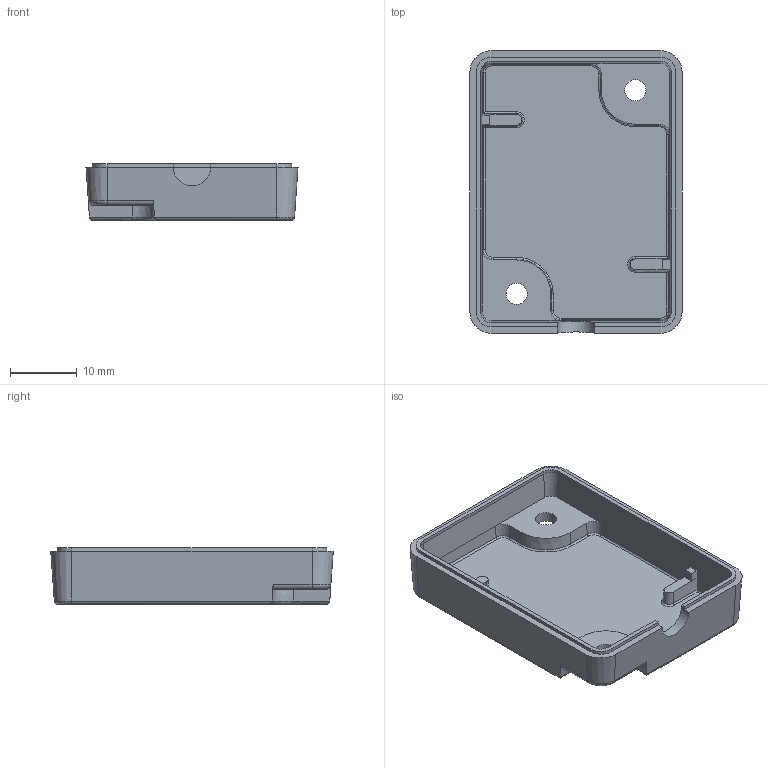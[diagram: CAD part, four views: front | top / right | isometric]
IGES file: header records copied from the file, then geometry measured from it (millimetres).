
Global section: file name: Filename.iges; native system: Open CASCADE 7.6; preprocessor: Open CASCADE IGES processor 7.6; date: 20231122.141217; units: millimetre
Bounding box: 31.75 x 42.29 x 8.45 mm (x, y, z)
Volume: 3449 mm3; surface area: 4589.4 mm2
Topology: 1 solids, 1 shells, 129 faces, 317 edges, 190 vertices
Faces by surface type: plane 38, bspline 30, cylinder 25, cone 20, torus 16
Full cylindrical faces by diameter (mm): 3.175 x2
